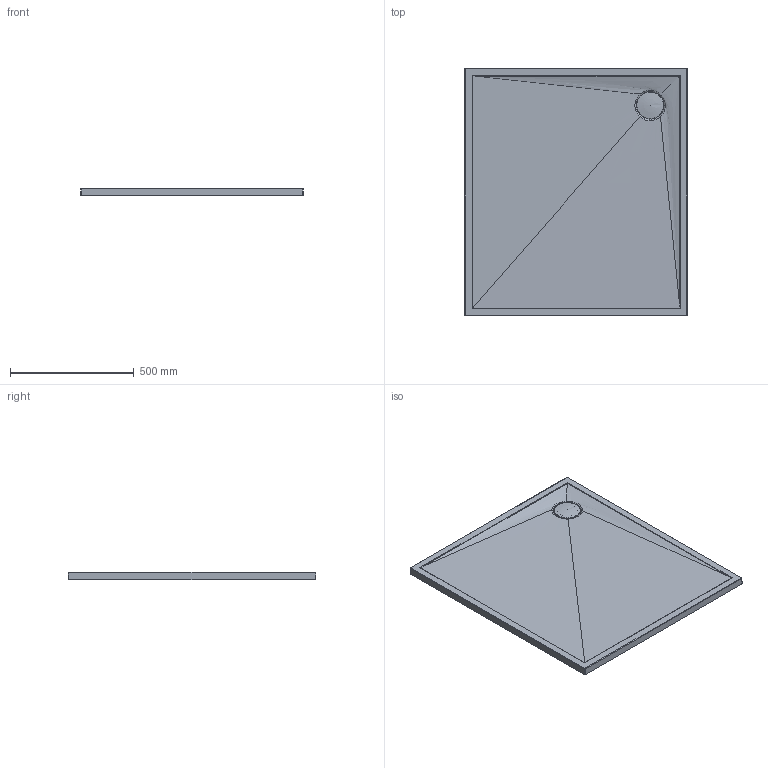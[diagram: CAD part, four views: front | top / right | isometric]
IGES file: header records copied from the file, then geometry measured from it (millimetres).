
Global section: file name: 98019f9a-d634-416a-b27e-126f77e44687; native system: unknown; preprocessor: unknown; author: unknown; organization: unknown; date: 20200320.104851; units: millimetre
Bounding box: 900 x 1000 x 30 mm (x, y, z)
Volume: 22479789.1 mm3; surface area: 1924318.5 mm2
Topology: 2 solids, 2 shells, 34 faces, 89 edges, 57 vertices
Faces by surface type: bspline 34
